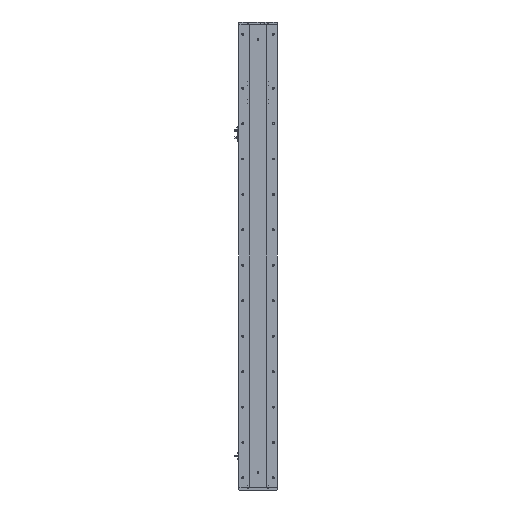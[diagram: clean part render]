
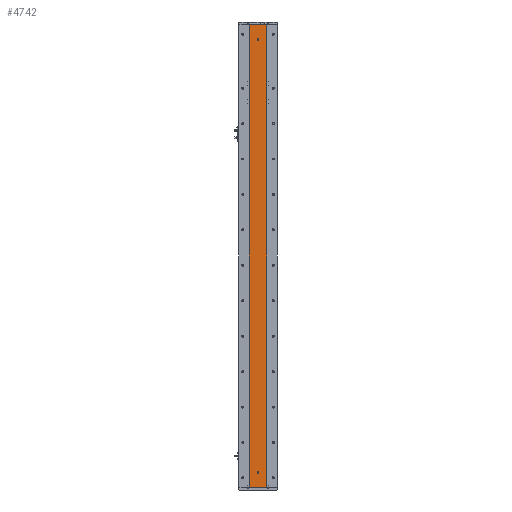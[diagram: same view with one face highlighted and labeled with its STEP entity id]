
A CAD part, left-side view. The second image highlights one B-rep face of the part: STEP entity #4742.
In plain terms, the highlighted planar face has unit normal (-1, 0, 0).
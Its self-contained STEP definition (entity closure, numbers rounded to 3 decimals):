
#341 = DIRECTION ( 'NONE',  ( 0., 0., -1. ) ) ;
#879 = EDGE_LOOP ( 'NONE', ( #25721, #7938 ) ) ;
#883 = CIRCLE ( 'NONE', #4009, 3. ) ;
#942 = LINE ( 'NONE', #26477, #19199 ) ;
#2012 = EDGE_CURVE ( 'NONE', #5497, #32136, #40523, .T. ) ;
#2482 = ORIENTED_EDGE ( 'NONE', *, *, #21088, .T. ) ;
#3970 = DIRECTION ( 'NONE',  ( -1., 0., 0. ) ) ;
#4009 = AXIS2_PLACEMENT_3D ( 'NONE', #23970, #4544, #27257 ) ;
#4544 = DIRECTION ( 'NONE',  ( -1., 0., 0. ) ) ;
#4742 = ADVANCED_FACE ( 'NONE', ( #14220, #29499, #12207 ), #23798, .F. ) ;
#5497 = VERTEX_POINT ( 'NONE', #6844 ) ;
#5990 = AXIS2_PLACEMENT_3D ( 'NONE', #9888, #32584, #13149 ) ;
#6283 = VERTEX_POINT ( 'NONE', #33920 ) ;
#6844 = CARTESIAN_POINT ( 'NONE',  ( -24.994, 29.785, 0. ) ) ;
#7100 = CARTESIAN_POINT ( 'NONE',  ( -24.994, 29.785, 1565. ) ) ;
#7516 = CIRCLE ( 'NONE', #17332, 3. ) ;
#7618 = CARTESIAN_POINT ( 'NONE',  ( -24.994, 0., 1515. ) ) ;
#7730 = DIRECTION ( 'NONE',  ( 1., 0., 0. ) ) ;
#7938 = ORIENTED_EDGE ( 'NONE', *, *, #38887, .F. ) ;
#8027 = ORIENTED_EDGE ( 'NONE', *, *, #20020, .F. ) ;
#8291 = CARTESIAN_POINT ( 'NONE',  ( -24.994, 0., 1518. ) ) ;
#9888 = CARTESIAN_POINT ( 'NONE',  ( -24.994, 0., 1515. ) ) ;
#10743 = CIRCLE ( 'NONE', #12843, 3. ) ;
#10781 = VERTEX_POINT ( 'NONE', #8291 ) ;
#10900 = DIRECTION ( 'NONE',  ( 0., 0., 1. ) ) ;
#12175 = CARTESIAN_POINT ( 'NONE',  ( -24.994, 0., 47. ) ) ;
#12207 = FACE_OUTER_BOUND ( 'NONE', #38536, .T. ) ;
#12498 = DIRECTION ( 'NONE',  ( 0., -1., 0. ) ) ;
#12843 = AXIS2_PLACEMENT_3D ( 'NONE', #7618, #30358, #10900 ) ;
#13149 = DIRECTION ( 'NONE',  ( 0., 0., 1. ) ) ;
#13410 = DIRECTION ( 'NONE',  ( 0., 0., -1. ) ) ;
#14220 = FACE_BOUND ( 'NONE', #18582, .T. ) ;
#14360 = VECTOR ( 'NONE', #341, 1000. ) ;
#14493 = VERTEX_POINT ( 'NONE', #19660 ) ;
#14636 = VECTOR ( 'NONE', #12498, 1000. ) ;
#16240 = VECTOR ( 'NONE', #26561, 1000. ) ;
#17332 = AXIS2_PLACEMENT_3D ( 'NONE', #23402, #3970, #26671 ) ;
#18582 = EDGE_LOOP ( 'NONE', ( #24224, #41389 ) ) ;
#19057 = CARTESIAN_POINT ( 'NONE',  ( -24.994, 29.785, 0. ) ) ;
#19199 = VECTOR ( 'NONE', #13410, 1000. ) ;
#19660 = CARTESIAN_POINT ( 'NONE',  ( -24.994, 0., 1512. ) ) ;
#20020 = EDGE_CURVE ( 'NONE', #6283, #33220, #23855, .T. ) ;
#20348 = VERTEX_POINT ( 'NONE', #12175 ) ;
#21088 = EDGE_CURVE ( 'NONE', #6283, #5497, #942, .T. ) ;
#21942 = CIRCLE ( 'NONE', #5990, 3. ) ;
#22288 = EDGE_CURVE ( 'NONE', #30627, #20348, #7516, .T. ) ;
#23402 = CARTESIAN_POINT ( 'NONE',  ( -24.994, 0., 50. ) ) ;
#23798 = PLANE ( 'NONE',  #34580 ) ;
#23855 = LINE ( 'NONE', #7100, #16240 ) ;
#23970 = CARTESIAN_POINT ( 'NONE',  ( -24.994, 0., 50. ) ) ;
#24224 = ORIENTED_EDGE ( 'NONE', *, *, #26010, .F. ) ;
#25721 = ORIENTED_EDGE ( 'NONE', *, *, #22288, .F. ) ;
#26010 = EDGE_CURVE ( 'NONE', #10781, #14493, #10743, .T. ) ;
#26477 = CARTESIAN_POINT ( 'NONE',  ( -24.994, 29.785, 1565. ) ) ;
#26561 = DIRECTION ( 'NONE',  ( 0., -1., 0. ) ) ;
#26671 = DIRECTION ( 'NONE',  ( 0., 0., 1. ) ) ;
#26905 = CARTESIAN_POINT ( 'NONE',  ( -24.994, -29.785, 1565. ) ) ;
#27210 = CARTESIAN_POINT ( 'NONE',  ( -24.994, 29.785, 1565. ) ) ;
#27257 = DIRECTION ( 'NONE',  ( 0., 0., 1. ) ) ;
#29499 = FACE_BOUND ( 'NONE', #879, .T. ) ;
#30358 = DIRECTION ( 'NONE',  ( -1., 0., 0. ) ) ;
#30460 = DIRECTION ( 'NONE',  ( 0., 0., -1. ) ) ;
#30627 = VERTEX_POINT ( 'NONE', #39472 ) ;
#32136 = VERTEX_POINT ( 'NONE', #39289 ) ;
#32584 = DIRECTION ( 'NONE',  ( -1., 0., 0. ) ) ;
#33220 = VERTEX_POINT ( 'NONE', #26905 ) ;
#33920 = CARTESIAN_POINT ( 'NONE',  ( -24.994, 29.785, 1565. ) ) ;
#34580 = AXIS2_PLACEMENT_3D ( 'NONE', #27210, #7730, #30460 ) ;
#35424 = ORIENTED_EDGE ( 'NONE', *, *, #40512, .F. ) ;
#38536 = EDGE_LOOP ( 'NONE', ( #42005, #35424, #8027, #2482 ) ) ;
#38887 = EDGE_CURVE ( 'NONE', #20348, #30627, #883, .T. ) ;
#39098 = CARTESIAN_POINT ( 'NONE',  ( -24.994, -29.785, 1565. ) ) ;
#39289 = CARTESIAN_POINT ( 'NONE',  ( -24.994, -29.785, 0. ) ) ;
#39472 = CARTESIAN_POINT ( 'NONE',  ( -24.994, 0., 53. ) ) ;
#40238 = LINE ( 'NONE', #39098, #14360 ) ;
#40512 = EDGE_CURVE ( 'NONE', #33220, #32136, #40238, .T. ) ;
#40523 = LINE ( 'NONE', #19057, #14636 ) ;
#41114 = EDGE_CURVE ( 'NONE', #14493, #10781, #21942, .T. ) ;
#41389 = ORIENTED_EDGE ( 'NONE', *, *, #41114, .F. ) ;
#42005 = ORIENTED_EDGE ( 'NONE', *, *, #2012, .T. ) ;
